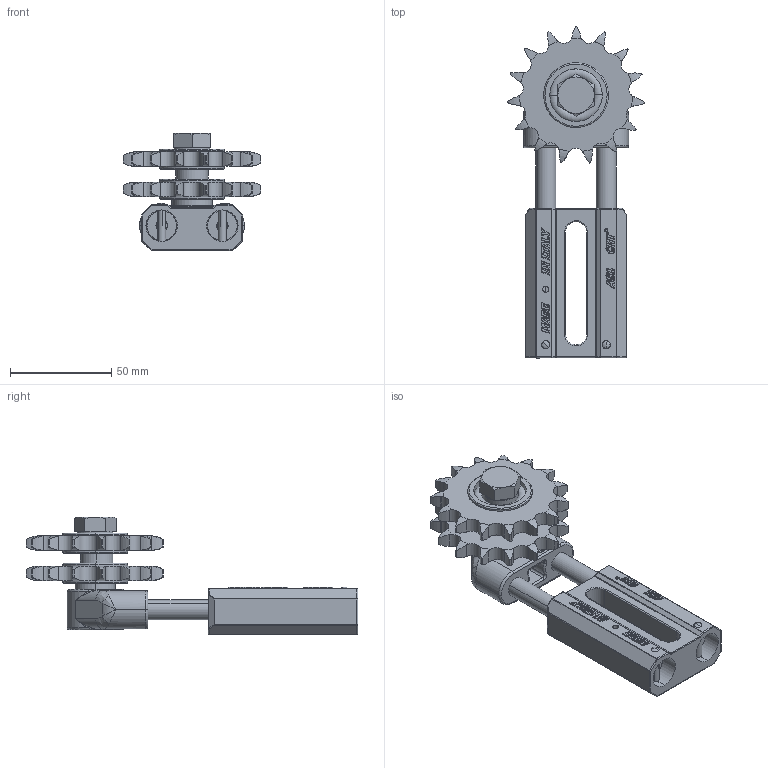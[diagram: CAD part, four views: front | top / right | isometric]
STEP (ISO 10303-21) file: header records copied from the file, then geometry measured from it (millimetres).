
FILE_DESCRIPTION (( 'STEP AP203' ), '1' );
FILE_NAME ('ASR1 1-2D cod.94021122.STEP', '2018-05-24T12:49:42', ( '' ), ( '' ), 'SwSTEP 2.0', 'SolidWorks 2016', '' );
FILE_SCHEMA (( 'CONFIG_CONTROL_DESIGN' ));
Length unit declared in the file: millimetre
Products named in the file (14): AS1-COL-AVP-comm.; ISO 4018 - M12 x 45-WC_ISO 4018 - M12 x 45-WC; ASR1 1-2D cod.94021122; DS 1-2 12-16-4.9; AS1 M12 cod. 94021012N; Ron. 5.3X15X1.2; ISO 8738 - 12_ISO 8738 - 12; Chain wheel ISO - 15Z 08B-1 --15SA32.0N_Chain wheel ISO - 15Z 08B-1 --15SA32.0N; R 1-2D M12 cod. 94061212_montaggio; Boccola 10-12-15; ISO 8745-M4x22-St_ISO 8745-M4x22-St; SKF - 6201 - 8,SI,NC,8_68_SKF - 6201 - 8,SI,NC,8_68; Testa AS1 M12; AS 1-Base
Assembly tree (19 placements, depth 3):
  ASR1 1-2D cod.94021122
    AS1 M12 cod. 94021012N
      AS 1-Base
      AS1-COL-AVP-comm.  x2
      Boccola 10-12-15  x2
      Testa AS1 M12
      ISO 8745-M4x22-St_ISO 8745-M4x22-St  x2
      Ron. 5.3X15X1.2  x2
    R 1-2D M12 cod. 94061212_montaggio
      Chain wheel ISO - 15Z 08B-1 --15SA32.0N_Chain wheel ISO - 15Z 08B-1 --15SA32.0N  x2
      SKF - 6201 - 8,SI,NC,8_68_SKF - 6201 - 8,SI,NC,8_68  x2
      DS 1-2 12-16-4.9
    ISO 8738 - 12_ISO 8738 - 12
    ISO 4018 - M12 x 45-WC_ISO 4018 - M12 x 45-WC
Bounding box: 68.13 x 164.22 x 58.35 mm (x, y, z)
Volume: 128756.5 mm3; surface area: 61049.5 mm2
Topology: 17 solids, 17 shells, 1093 faces, 2691 edges, 1623 vertices
Faces by surface type: cylinder 473, plane 300, bspline 130, torus 128, sphere 38, cone 24
Entity records: 33227 total; most frequent: CARTESIAN_POINT 11862, ORIENTED_EDGE 4376, DIRECTION 3722, EDGE_CURVE 2188, AXIS2_PLACEMENT_3D 1322, VERTEX_POINT 1321, VECTOR 1078, LINE 1078
